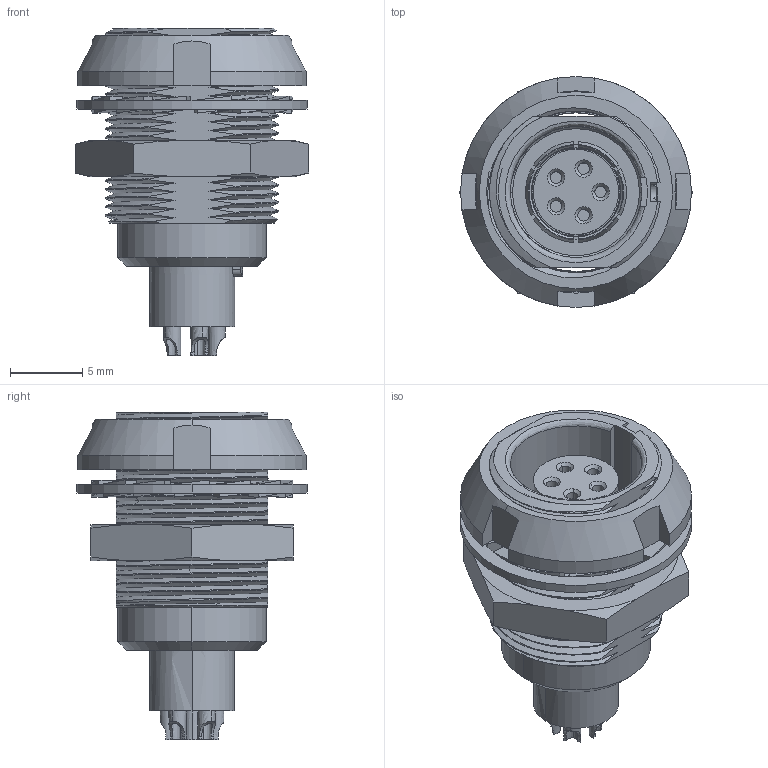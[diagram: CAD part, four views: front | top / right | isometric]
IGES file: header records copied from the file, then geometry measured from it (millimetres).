
Start section:  PTC IGES file: FLBC-05ECFS-GCP-001.igs
Global section: file name: FLBC-05ECFS-GCP-001.igs; native system: Creo Parametric by Parametric Technology Corporation; preprocessor: 2017170; author: L210037; organization: Unknown; date: 20211018.113952; units: millimetre
Bounding box: 16.17 x 16 x 22.7 mm (x, y, z)
Volume: 1628.8 mm3; surface area: 3108.3 mm2
Topology: 2 solids, 2 shells, 502 faces, 1592 edges, 1069 vertices
Faces by surface type: bspline 275, revolution 227
